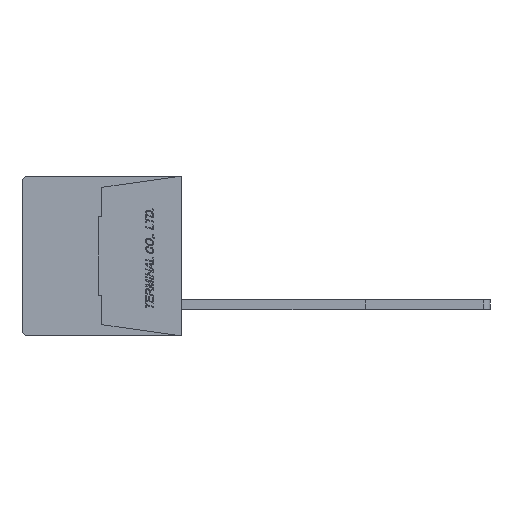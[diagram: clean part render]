
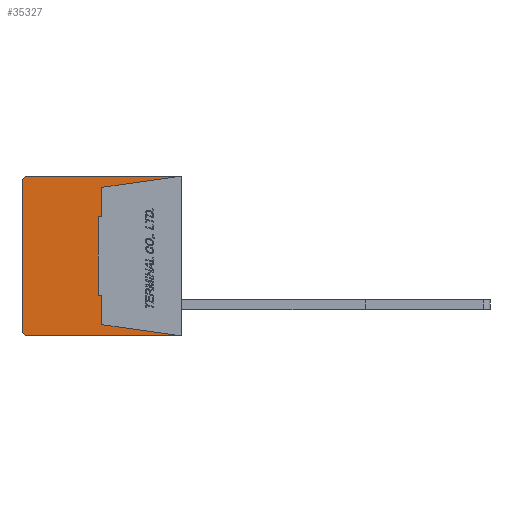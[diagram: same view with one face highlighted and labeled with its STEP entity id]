
A CAD part, left-side view. The second image highlights one B-rep face of the part: STEP entity #35327.
In plain terms, the highlighted planar face has unit normal (-1, 0, 0).
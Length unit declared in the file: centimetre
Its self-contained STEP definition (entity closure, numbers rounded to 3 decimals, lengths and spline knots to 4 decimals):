
#1828=CIRCLE('',#60527,0.05);
#1829=CIRCLE('',#60530,0.05);
#3349=VERTEX_POINT('',#49731);
#3350=VERTEX_POINT('',#49733);
#3351=VERTEX_POINT('',#49737);
#3352=VERTEX_POINT('',#49741);
#3353=VERTEX_POINT('',#49745);
#3354=VERTEX_POINT('',#49749);
#3355=VERTEX_POINT('',#49752);
#3356=VERTEX_POINT('',#49754);
#3357=VERTEX_POINT('',#49756);
#3358=VERTEX_POINT('',#49758);
#3359=VERTEX_POINT('',#49760);
#3360=VERTEX_POINT('',#49762);
#7017=VECTOR('',#41055,1.);
#7021=VECTOR('',#41064,1.);
#7024=VECTOR('',#41072,1.);
#7025=VECTOR('',#41073,1.);
#7026=VECTOR('',#41074,1.);
#7027=VECTOR('',#41075,1.);
#7028=VECTOR('',#41076,1.);
#7029=VECTOR('',#41077,1.);
#7030=VECTOR('',#41078,1.);
#7031=VECTOR('',#41079,1.);
#11161=LINE('',#49732,#7017);
#11165=LINE('',#49742,#7021);
#11168=LINE('',#49750,#7024);
#11169=LINE('',#49751,#7025);
#11170=LINE('',#49753,#7026);
#11171=LINE('',#49755,#7027);
#11172=LINE('',#49757,#7028);
#11173=LINE('',#49759,#7029);
#11174=LINE('',#49761,#7030);
#11175=LINE('',#49763,#7031);
#15867=EDGE_CURVE('',#3350,#3349,#11161,.T.);
#15870=EDGE_CURVE('',#3351,#3349,#1828,.T.);
#15872=EDGE_CURVE('',#3351,#3352,#11165,.T.);
#15874=EDGE_CURVE('',#3353,#3352,#1829,.T.);
#15876=EDGE_CURVE('',#3353,#3354,#11168,.T.);
#15877=EDGE_CURVE('',#3355,#3350,#11169,.T.);
#15878=EDGE_CURVE('',#3354,#3356,#11170,.T.);
#15879=EDGE_CURVE('',#3356,#3357,#11171,.T.);
#15880=EDGE_CURVE('',#3357,#3358,#11172,.T.);
#15881=EDGE_CURVE('',#3358,#3359,#11173,.T.);
#15882=EDGE_CURVE('',#3359,#3360,#11174,.T.);
#15883=EDGE_CURVE('',#3360,#3355,#11175,.T.);
#23111=ORIENTED_EDGE('',*,*,#15877,.T.);
#23112=ORIENTED_EDGE('',*,*,#15867,.T.);
#23113=ORIENTED_EDGE('',*,*,#15870,.F.);
#23114=ORIENTED_EDGE('',*,*,#15872,.T.);
#23115=ORIENTED_EDGE('',*,*,#15874,.F.);
#23116=ORIENTED_EDGE('',*,*,#15876,.T.);
#23117=ORIENTED_EDGE('',*,*,#15878,.T.);
#23118=ORIENTED_EDGE('',*,*,#15879,.T.);
#23119=ORIENTED_EDGE('',*,*,#15880,.T.);
#23120=ORIENTED_EDGE('',*,*,#15881,.T.);
#23121=ORIENTED_EDGE('',*,*,#15882,.T.);
#23122=ORIENTED_EDGE('',*,*,#15883,.T.);
#30819=EDGE_LOOP('',(#23111,#23112,#23113,#23114,#23115,#23116,#23117,#23118,
#23119,#23120,#23121,#23122));
#33139=FACE_BOUND('',#30819,.T.);
#35327=ADVANCED_FACE('',(#33139),#37196,.F.);
#37196=PLANE('',#60524);
#40941=DIRECTION('',(1.,0.,0.));
#41055=DIRECTION('',(0.,1.,0.));
#41060=DIRECTION('',(1.,0.,0.));
#41061=DIRECTION('',(0.,0.,-0.05));
#41064=DIRECTION('',(0.,0.,-1.));
#41068=DIRECTION('',(1.,0.,0.));
#41069=DIRECTION('',(0.,0.,-0.05));
#41072=DIRECTION('',(0.,-1.,0.));
#41073=DIRECTION('',(0.,-0.99,0.139));
#41074=DIRECTION('',(0.,0.99,0.139));
#41075=DIRECTION('',(0.,0.,1.));
#41076=DIRECTION('',(0.,1.,0.));
#41077=DIRECTION('',(0.,0.,1.));
#41078=DIRECTION('',(0.,-1.,0.));
#41079=DIRECTION('',(0.,0.,1.));
#49298=CARTESIAN_POINT('',(-0.889,0.6345,0.));
#49731=CARTESIAN_POINT('',(-0.889,1.23,0.64));
#49732=CARTESIAN_POINT('',(-0.889,0.,0.64));
#49733=CARTESIAN_POINT('',(-0.889,0.,0.64));
#49737=CARTESIAN_POINT('',(-0.889,1.28,0.59));
#49738=CARTESIAN_POINT('',(-0.889,1.23,0.59));
#49741=CARTESIAN_POINT('',(-0.889,1.28,-0.59));
#49742=CARTESIAN_POINT('',(-0.889,1.28,0.59));
#49745=CARTESIAN_POINT('',(-0.889,1.23,-0.64));
#49746=CARTESIAN_POINT('',(-0.889,1.23,-0.59));
#49749=CARTESIAN_POINT('',(-0.889,0.,-0.64));
#49750=CARTESIAN_POINT('',(-0.889,1.23,-0.64));
#49751=CARTESIAN_POINT('',(-0.889,0.64,0.55));
#49752=CARTESIAN_POINT('',(-0.889,0.64,0.55));
#49753=CARTESIAN_POINT('',(-0.889,0.,-0.64));
#49754=CARTESIAN_POINT('',(-0.889,0.64,-0.55));
#49755=CARTESIAN_POINT('',(-0.889,0.64,-0.55));
#49756=CARTESIAN_POINT('',(-0.889,0.64,-0.315));
#49757=CARTESIAN_POINT('',(-0.889,0.64,-0.315));
#49758=CARTESIAN_POINT('',(-0.889,0.67,-0.315));
#49759=CARTESIAN_POINT('',(-0.889,0.67,-0.315));
#49760=CARTESIAN_POINT('',(-0.889,0.67,0.315));
#49761=CARTESIAN_POINT('',(-0.889,0.67,0.315));
#49762=CARTESIAN_POINT('',(-0.889,0.64,0.315));
#49763=CARTESIAN_POINT('',(-0.889,0.64,0.315));
#60524=AXIS2_PLACEMENT_3D('',#49298,#40941,$);
#60527=AXIS2_PLACEMENT_3D('',#49738,#41060,#41061);
#60530=AXIS2_PLACEMENT_3D('',#49746,#41068,#41069);
